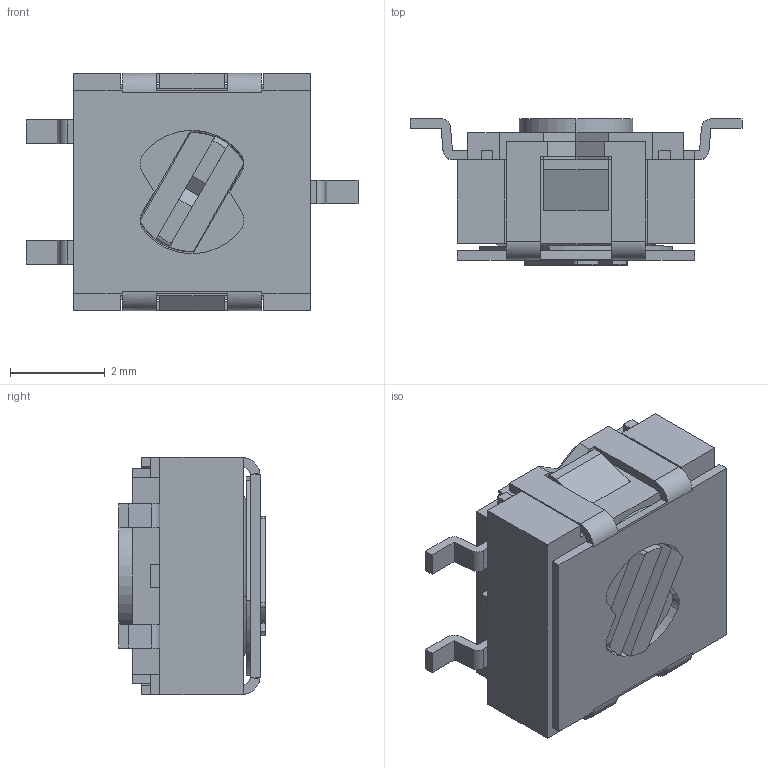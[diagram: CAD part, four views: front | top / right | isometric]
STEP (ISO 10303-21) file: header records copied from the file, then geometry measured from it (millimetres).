
FILE_DESCRIPTION((''),'2;1');
FILE_NAME('SMR1-30_ASM','2017-08-25T',('Administrator'),(''),'PRO/ENGINEER BY PARAMETRIC TECHNOLOGY CORPORATION, 2010100','PRO/ENGINEER BY PARAMETRIC TECHNOLOGY CORPORATION, 2010100','');
FILE_SCHEMA(('CONFIG_CONTROL_DESIGN'));
Length unit declared in the file: millimetre
Products named in the file (16): 11-85301-Z002_6; 13-80502_5; 11-85300-O_4; 22-80501-O_3; 19-80500-O_2; 13-20_ASM_5_ASM; 22-80502-O_2; 16-80003-O_2; 18-80502-O_4; MANIFOLD_SOLID_BREP_17053; MANIFOLD_SOLID_BREP_17606; MANIFOLD_SOLID_BREP_17961; MANIFOLD_SOLID_BREP_18514; 12-80502-8AU_4_ASM; ASM0001_ASM_6_ASM; SMR1-30_ASM
Assembly tree (15 placements, depth 4):
  SMR1-30_ASM
    ASM0001_ASM_6_ASM
      11-85301-Z002_6
      13-80502_5
      13-20_ASM_5_ASM
        11-85300-O_4
        22-80501-O_3
        19-80500-O_2
      22-80502-O_2
      16-80003-O_2
      18-80502-O_4
      12-80502-8AU_4_ASM
        MANIFOLD_SOLID_BREP_17053
        MANIFOLD_SOLID_BREP_17606
        MANIFOLD_SOLID_BREP_17961
        MANIFOLD_SOLID_BREP_18514
Bounding box: 7 x 3.08 x 5 mm (x, y, z)
Volume: 57.1 mm3; surface area: 329.8 mm2
Topology: 12 solids, 12 shells, 538 faces, 1387 edges, 862 vertices
Faces by surface type: plane 298, cylinder 146, bspline 38, torus 32, cone 16, sphere 8
Entity records: 18677 total; most frequent: CARTESIAN_POINT 5437, ORIENTED_EDGE 2758, DIRECTION 2670, EDGE_CURVE 1379, AXIS2_PLACEMENT_3D 918, VERTEX_POINT 862, VECTOR 834, LINE 834
